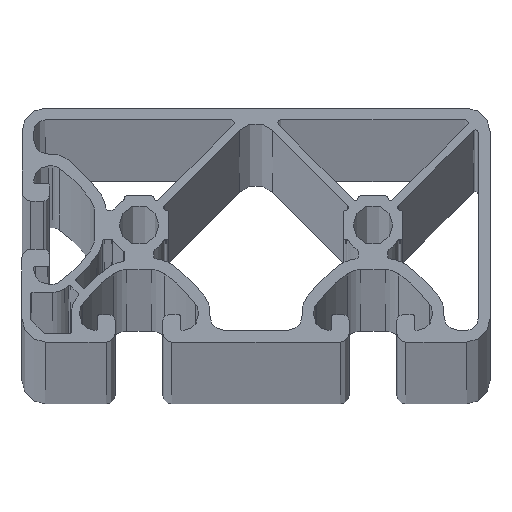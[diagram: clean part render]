
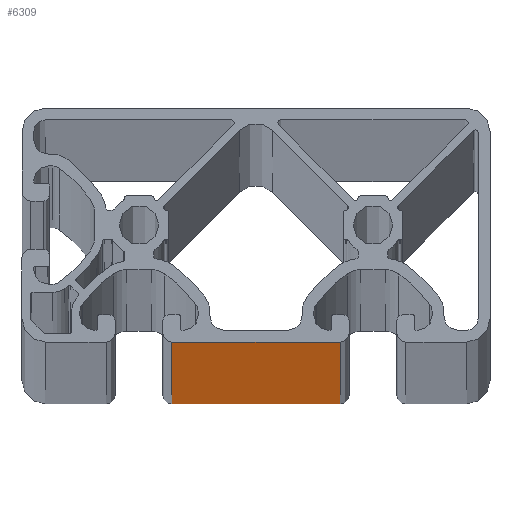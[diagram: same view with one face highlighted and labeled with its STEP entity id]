
A CAD part, top view. The second image highlights one B-rep face of the part: STEP entity #6309.
In plain terms, the highlighted planar face has unit normal (0, -1, 0).
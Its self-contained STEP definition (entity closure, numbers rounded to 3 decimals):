
#338 = CARTESIAN_POINT ( 'NONE',  ( -14.4, -20., -6060. ) ) ;
#468 = VECTOR ( 'NONE', #6665, 1000. ) ;
#554 = VECTOR ( 'NONE', #5797, 1000. ) ;
#891 = VECTOR ( 'NONE', #3183, 1000. ) ;
#1076 = PLANE ( 'NONE',  #2684 ) ;
#1305 = CARTESIAN_POINT ( 'NONE',  ( -14.4, -20., -6060. ) ) ;
#1395 = EDGE_CURVE ( 'NONE', #5984, #5375, #3145, .T. ) ;
#1748 = EDGE_CURVE ( 'NONE', #3727, #6767, #6552, .T. ) ;
#1888 = VECTOR ( 'NONE', #3640, 1000. ) ;
#2187 = FACE_OUTER_BOUND ( 'NONE', #3612, .T. ) ;
#2247 = ORIENTED_EDGE ( 'NONE', *, *, #1748, .F. ) ;
#2347 = DIRECTION ( 'NONE',  ( 0., -1., 0. ) ) ;
#2684 = AXIS2_PLACEMENT_3D ( 'NONE', #6439, #2347, #4519 ) ;
#3145 = LINE ( 'NONE', #3759, #891 ) ;
#3183 = DIRECTION ( 'NONE',  ( 0., 0., 1. ) ) ;
#3226 = ORIENTED_EDGE ( 'NONE', *, *, #3788, .T. ) ;
#3612 = EDGE_LOOP ( 'NONE', ( #7143, #2247, #3226, #5155 ) ) ;
#3640 = DIRECTION ( 'NONE',  ( 0., 0., 1. ) ) ;
#3727 = VERTEX_POINT ( 'NONE', #338 ) ;
#3759 = CARTESIAN_POINT ( 'NONE',  ( 14.4, -20., -6060. ) ) ;
#3788 = EDGE_CURVE ( 'NONE', #3727, #5984, #7252, .T. ) ;
#4322 = CARTESIAN_POINT ( 'NONE',  ( -14.4, -20., -6060. ) ) ;
#4519 = DIRECTION ( 'NONE',  ( 0., 0., -1. ) ) ;
#5155 = ORIENTED_EDGE ( 'NONE', *, *, #1395, .T. ) ;
#5375 = VERTEX_POINT ( 'NONE', #7354 ) ;
#5797 = DIRECTION ( 'NONE',  ( 1., 0., 0. ) ) ;
#5984 = VERTEX_POINT ( 'NONE', #6222 ) ;
#6222 = CARTESIAN_POINT ( 'NONE',  ( 14.4, -20., -6060. ) ) ;
#6309 = ADVANCED_FACE ( 'NONE', ( #2187 ), #1076, .T. ) ;
#6413 = CARTESIAN_POINT ( 'NONE',  ( -14.4, -20., 0. ) ) ;
#6439 = CARTESIAN_POINT ( 'NONE',  ( -14.4, -20., -6060. ) ) ;
#6552 = LINE ( 'NONE', #1305, #1888 ) ;
#6665 = DIRECTION ( 'NONE',  ( 1., 0., 0. ) ) ;
#6767 = VERTEX_POINT ( 'NONE', #7594 ) ;
#6948 = LINE ( 'NONE', #6413, #554 ) ;
#7143 = ORIENTED_EDGE ( 'NONE', *, *, #7517, .F. ) ;
#7252 = LINE ( 'NONE', #4322, #468 ) ;
#7354 = CARTESIAN_POINT ( 'NONE',  ( 14.4, -20., 0. ) ) ;
#7517 = EDGE_CURVE ( 'NONE', #6767, #5375, #6948, .T. ) ;
#7594 = CARTESIAN_POINT ( 'NONE',  ( -14.4, -20., 0. ) ) ;
